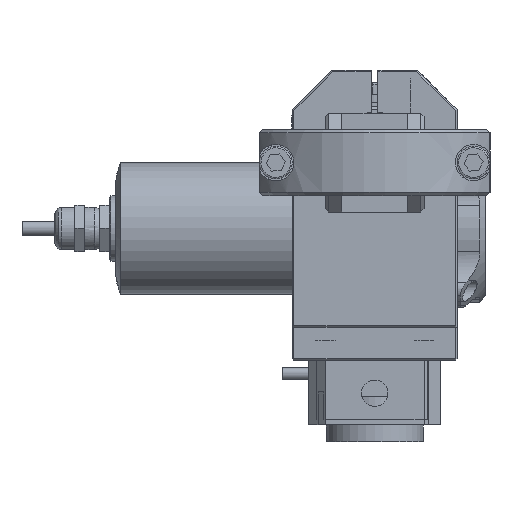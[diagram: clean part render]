
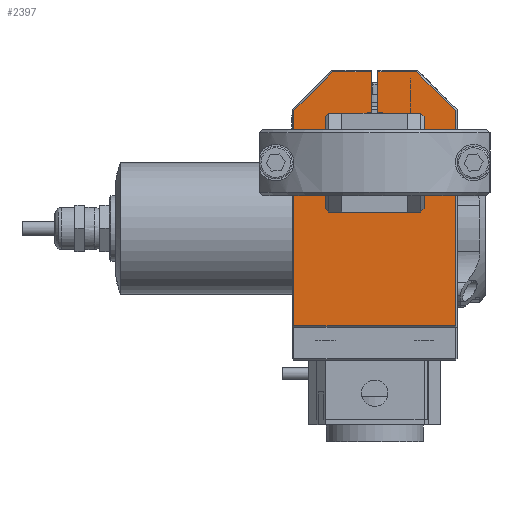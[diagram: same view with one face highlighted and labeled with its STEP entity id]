
A CAD part, left-side view. The second image highlights one B-rep face of the part: STEP entity #2397.
In plain terms, the highlighted planar face has unit normal (-1, 0, 0) as drawn and (1, 0, 0) by its records, which use the part's own axes.
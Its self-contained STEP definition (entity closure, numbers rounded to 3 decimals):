
#2397 = ADVANCED_FACE( '', ( #4830 ), #4831, .T. );
#4830 = FACE_OUTER_BOUND( '', #9055, .T. );
#4831 = PLANE( '', #9056 );
#9055 = EDGE_LOOP( '', ( #16123, #16124, #16125, #16126, #16127, #16128, #16129, #16130, #16131, #16132 ) );
#9056 = AXIS2_PLACEMENT_3D( '', #16133, #16134, #16135 );
#16123 = ORIENTED_EDGE( '', *, *, #22814, .F. );
#16124 = ORIENTED_EDGE( '', *, *, #22815, .T. );
#16125 = ORIENTED_EDGE( '', *, *, #22816, .F. );
#16126 = ORIENTED_EDGE( '', *, *, #22683, .T. );
#16127 = ORIENTED_EDGE( '', *, *, #22817, .T. );
#16128 = ORIENTED_EDGE( '', *, *, #22818, .T. );
#16129 = ORIENTED_EDGE( '', *, *, #22819, .T. );
#16130 = ORIENTED_EDGE( '', *, *, #22820, .T. );
#16131 = ORIENTED_EDGE( '', *, *, #22821, .T. );
#16132 = ORIENTED_EDGE( '', *, *, #22822, .T. );
#16133 = CARTESIAN_POINT( '', ( 15., -25., -39. ) );
#16134 = DIRECTION( '', ( 1., 0., 0. ) );
#16135 = DIRECTION( '', ( 0., 1., 0. ) );
#22683 = EDGE_CURVE( '', #28698, #28696, #28699, .T. );
#22814 = EDGE_CURVE( '', #28941, #28942, #28943, .T. );
#22815 = EDGE_CURVE( '', #28941, #28944, #28945, .F. );
#22816 = EDGE_CURVE( '', #28698, #28944, #28946, .T. );
#22817 = EDGE_CURVE( '', #28696, #28947, #28948, .T. );
#22818 = EDGE_CURVE( '', #28947, #28949, #28950, .T. );
#22819 = EDGE_CURVE( '', #28949, #28216, #28951, .T. );
#22820 = EDGE_CURVE( '', #28216, #28952, #28953, .T. );
#22821 = EDGE_CURVE( '', #28952, #28954, #28955, .T. );
#22822 = EDGE_CURVE( '', #28954, #28942, #28956, .T. );
#28216 = VERTEX_POINT( '', #34772 );
#28696 = VERTEX_POINT( '', #35781 );
#28698 = VERTEX_POINT( '', #35784 );
#28699 = LINE( '', #35785, #35786 );
#28941 = VERTEX_POINT( '', #37368 );
#28942 = VERTEX_POINT( '', #37369 );
#28943 = LINE( '', #37370, #37371 );
#28944 = VERTEX_POINT( '', #37372 );
#28945 = CIRCLE( '', #37373, 15.3 );
#28946 = LINE( '', #37374, #37375 );
#28947 = VERTEX_POINT( '', #37376 );
#28948 = LINE( '', #37377, #37378 );
#28949 = VERTEX_POINT( '', #37379 );
#28950 = LINE( '', #37380, #37381 );
#28951 = LINE( '', #37382, #37383 );
#28952 = VERTEX_POINT( '', #37384 );
#28953 = LINE( '', #37385, #37386 );
#28954 = VERTEX_POINT( '', #37387 );
#28955 = LINE( '', #37388, #37389 );
#28956 = LINE( '', #37390, #37391 );
#34772 = CARTESIAN_POINT( '', ( 15., 24.5, -38.5 ) );
#35781 = CARTESIAN_POINT( '', ( 15., -12.793, 38.5 ) );
#35784 = CARTESIAN_POINT( '', ( 15., -1., 38.5 ) );
#35785 = CARTESIAN_POINT( '', ( 15., -25., 38.5 ) );
#35786 = VECTOR( '', #49692, 1000. );
#37368 = CARTESIAN_POINT( '', ( 15., 1., 26.267 ) );
#37369 = CARTESIAN_POINT( '', ( 15., 1., 38.5 ) );
#37370 = CARTESIAN_POINT( '', ( 15., 1., 9. ) );
#37371 = VECTOR( '', #49737, 1000. );
#37372 = CARTESIAN_POINT( '', ( 15., -1., 26.267 ) );
#37373 = AXIS2_PLACEMENT_3D( '', #49738, #49739, #49740 );
#37374 = CARTESIAN_POINT( '', ( 15., -1., 39. ) );
#37375 = VECTOR( '', #49741, 1000. );
#37376 = CARTESIAN_POINT( '', ( 15., -24.5, 26.793 ) );
#37377 = CARTESIAN_POINT( '', ( 15., -57.646, -6.354 ) );
#37378 = VECTOR( '', #49742, 1000. );
#37379 = CARTESIAN_POINT( '', ( 15., -24.5, -38.5 ) );
#37380 = CARTESIAN_POINT( '', ( 15., -24.5, -39. ) );
#37381 = VECTOR( '', #49743, 1000. );
#37382 = CARTESIAN_POINT( '', ( 15., 25., -38.5 ) );
#37383 = VECTOR( '', #49744, 1000. );
#37384 = CARTESIAN_POINT( '', ( 15., 24.5, 26.793 ) );
#37385 = CARTESIAN_POINT( '', ( 15., 24.5, 39. ) );
#37386 = VECTOR( '', #49745, 1000. );
#37387 = CARTESIAN_POINT( '', ( 15., 12.793, 38.5 ) );
#37388 = CARTESIAN_POINT( '', ( 15., 32.646, 18.646 ) );
#37389 = VECTOR( '', #49746, 1000. );
#37390 = CARTESIAN_POINT( '', ( 15., -25., 38.5 ) );
#37391 = VECTOR( '', #49747, 1000. );
#49692 = DIRECTION( '', ( 0., -1., 0. ) );
#49737 = DIRECTION( '', ( 0., 0., 1. ) );
#49738 = CARTESIAN_POINT( '', ( 15., 0., 11. ) );
#49739 = DIRECTION( '', ( 1., 0., 0. ) );
#49740 = DIRECTION( '', ( 0., 1., 0. ) );
#49741 = DIRECTION( '', ( 0., 0., -1. ) );
#49742 = DIRECTION( '', ( 0., -0.707, -0.707 ) );
#49743 = DIRECTION( '', ( 0., 0., -1. ) );
#49744 = DIRECTION( '', ( 0., 1., 0. ) );
#49745 = DIRECTION( '', ( 0., 0., 1. ) );
#49746 = DIRECTION( '', ( 0., -0.707, 0.707 ) );
#49747 = DIRECTION( '', ( 0., -1., 0. ) );
